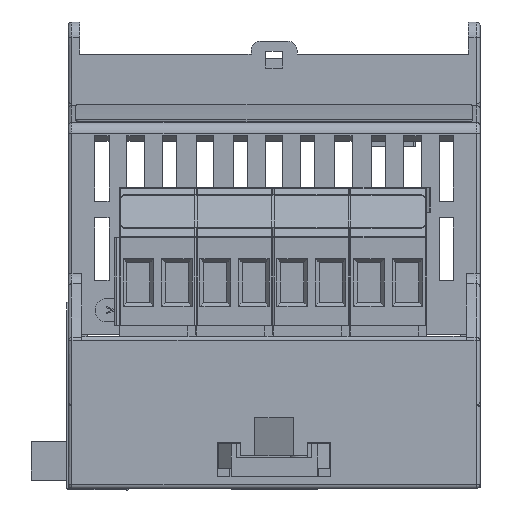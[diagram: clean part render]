
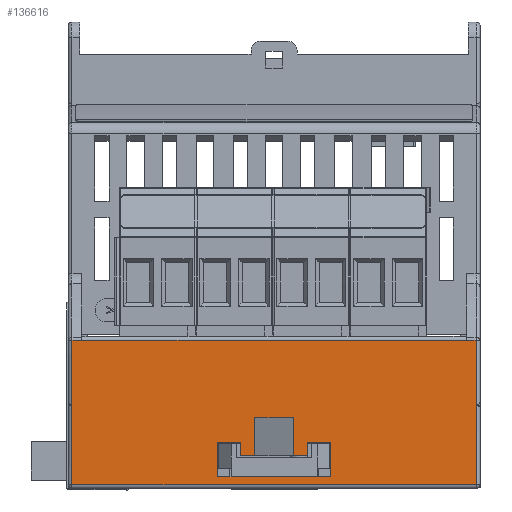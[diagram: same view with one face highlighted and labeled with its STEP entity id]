
A CAD part, front view. The second image highlights one B-rep face of the part: STEP entity #136616.
In plain terms, the highlighted planar face has unit normal (0, -1, 0).
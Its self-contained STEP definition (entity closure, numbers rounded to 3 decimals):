
#1679=FACE_BOUND('',#16717,.T.);
#9259=FACE_OUTER_BOUND('',#16716,.T.);
#16716=EDGE_LOOP('',(#106196,#106197,#106198,#106199,#106200,#106201,#106202,
#106203,#106204,#106205));
#16717=EDGE_LOOP('',(#106206,#106207,#106208,#106209,#106210,#106211,#106212,
#106213,#106214,#106215,#106216,#106217,#106218,#106219));
#19325=LINE('',#182890,#35326);
#19434=LINE('',#183110,#35435);
#19435=LINE('',#183113,#35436);
#24157=LINE('',#194832,#40158);
#24161=LINE('',#194864,#40162);
#24163=LINE('',#194922,#40164);
#24410=LINE('',#195841,#40411);
#25453=LINE('',#198085,#41454);
#28952=LINE('',#216117,#44953);
#28953=LINE('',#216119,#44954);
#28954=LINE('',#216121,#44955);
#28955=LINE('',#216122,#44956);
#28956=LINE('',#216123,#44957);
#28957=LINE('',#216125,#44958);
#28958=LINE('',#216127,#44959);
#28959=LINE('',#216129,#44960);
#28960=LINE('',#216131,#44961);
#28961=LINE('',#216133,#44962);
#28962=LINE('',#216135,#44963);
#28963=LINE('',#216137,#44964);
#28964=LINE('',#216139,#44965);
#28965=LINE('',#216141,#44966);
#28966=LINE('',#216143,#44967);
#28967=LINE('',#216144,#44968);
#35326=VECTOR('',#148449,1.);
#35435=VECTOR('',#148646,1.);
#35436=VECTOR('',#148649,1.);
#40158=VECTOR('',#158969,1.);
#40162=VECTOR('',#159005,1.);
#40164=VECTOR('',#159011,1.);
#40411=VECTOR('',#159636,1.);
#41454=VECTOR('',#161623,1.);
#44953=VECTOR('',#170962,1.);
#44954=VECTOR('',#170963,1.);
#44955=VECTOR('',#170964,1.);
#44956=VECTOR('',#170965,1.);
#44957=VECTOR('',#170966,1.);
#44958=VECTOR('',#170967,1.);
#44959=VECTOR('',#170968,1.);
#44960=VECTOR('',#170969,1.);
#44961=VECTOR('',#170970,1.);
#44962=VECTOR('',#170971,1.);
#44963=VECTOR('',#170972,1.);
#44964=VECTOR('',#170973,1.);
#44965=VECTOR('',#170974,1.);
#44966=VECTOR('',#170975,1.);
#44967=VECTOR('',#170976,1.);
#44968=VECTOR('',#170977,1.);
#51324=VERTEX_POINT('',#182888);
#51325=VERTEX_POINT('',#182889);
#51392=VERTEX_POINT('',#183108);
#51393=VERTEX_POINT('',#183112);
#54745=VERTEX_POINT('',#193231);
#55328=VERTEX_POINT('',#194826);
#55330=VERTEX_POINT('',#194830);
#55341=VERTEX_POINT('',#194861);
#55342=VERTEX_POINT('',#194863);
#55344=VERTEX_POINT('',#194869);
#56235=VERTEX_POINT('',#198084);
#59296=VERTEX_POINT('',#216116);
#59297=VERTEX_POINT('',#216118);
#59298=VERTEX_POINT('',#216120);
#59299=VERTEX_POINT('',#216124);
#59300=VERTEX_POINT('',#216126);
#59301=VERTEX_POINT('',#216128);
#59302=VERTEX_POINT('',#216130);
#59303=VERTEX_POINT('',#216132);
#59304=VERTEX_POINT('',#216134);
#59305=VERTEX_POINT('',#216136);
#59306=VERTEX_POINT('',#216138);
#59307=VERTEX_POINT('',#216140);
#59308=VERTEX_POINT('',#216142);
#63651=EDGE_CURVE('',#51324,#51325,#19325,.T.);
#63765=EDGE_CURVE('',#51392,#51324,#19434,.T.);
#63766=EDGE_CURVE('',#51325,#51393,#19435,.T.);
#69447=EDGE_CURVE('',#55330,#55328,#24157,.T.);
#69462=EDGE_CURVE('',#55341,#55342,#24161,.T.);
#69466=EDGE_CURVE('',#55341,#55344,#24163,.T.);
#69793=EDGE_CURVE('',#55328,#54745,#24410,.T.);
#70903=EDGE_CURVE('',#56235,#55342,#25453,.T.);
#75770=EDGE_CURVE('',#59296,#56235,#28952,.T.);
#75771=EDGE_CURVE('',#59297,#55344,#28953,.T.);
#75772=EDGE_CURVE('',#59297,#59298,#28954,.T.);
#75773=EDGE_CURVE('',#54745,#59298,#28955,.T.);
#75774=EDGE_CURVE('',#55330,#59296,#28956,.T.);
#75775=EDGE_CURVE('',#51392,#59299,#28957,.T.);
#75776=EDGE_CURVE('',#59300,#59299,#28958,.T.);
#75777=EDGE_CURVE('',#59300,#59301,#28959,.T.);
#75778=EDGE_CURVE('',#59302,#59301,#28960,.T.);
#75779=EDGE_CURVE('',#59302,#59303,#28961,.T.);
#75780=EDGE_CURVE('',#59304,#59303,#28962,.T.);
#75781=EDGE_CURVE('',#59304,#59305,#28963,.T.);
#75782=EDGE_CURVE('',#59306,#59305,#28964,.T.);
#75783=EDGE_CURVE('',#59306,#59307,#28965,.T.);
#75784=EDGE_CURVE('',#59307,#59308,#28966,.T.);
#75785=EDGE_CURVE('',#59308,#51393,#28967,.T.);
#106196=ORIENTED_EDGE('',*,*,#75770,.T.);
#106197=ORIENTED_EDGE('',*,*,#70903,.T.);
#106198=ORIENTED_EDGE('',*,*,#69462,.F.);
#106199=ORIENTED_EDGE('',*,*,#69466,.T.);
#106200=ORIENTED_EDGE('',*,*,#75771,.F.);
#106201=ORIENTED_EDGE('',*,*,#75772,.T.);
#106202=ORIENTED_EDGE('',*,*,#75773,.F.);
#106203=ORIENTED_EDGE('',*,*,#69793,.F.);
#106204=ORIENTED_EDGE('',*,*,#69447,.F.);
#106205=ORIENTED_EDGE('',*,*,#75774,.T.);
#106206=ORIENTED_EDGE('',*,*,#63765,.F.);
#106207=ORIENTED_EDGE('',*,*,#75775,.T.);
#106208=ORIENTED_EDGE('',*,*,#75776,.F.);
#106209=ORIENTED_EDGE('',*,*,#75777,.T.);
#106210=ORIENTED_EDGE('',*,*,#75778,.F.);
#106211=ORIENTED_EDGE('',*,*,#75779,.T.);
#106212=ORIENTED_EDGE('',*,*,#75780,.F.);
#106213=ORIENTED_EDGE('',*,*,#75781,.T.);
#106214=ORIENTED_EDGE('',*,*,#75782,.F.);
#106215=ORIENTED_EDGE('',*,*,#75783,.T.);
#106216=ORIENTED_EDGE('',*,*,#75784,.T.);
#106217=ORIENTED_EDGE('',*,*,#75785,.T.);
#106218=ORIENTED_EDGE('',*,*,#63766,.F.);
#106219=ORIENTED_EDGE('',*,*,#63651,.F.);
#123329=PLANE('',#145596);
#136616=ADVANCED_FACE('',(#9259,#1679),#123329,.F.);
#145596=AXIS2_PLACEMENT_3D('',#216115,#170960,#170961);
#148449=DIRECTION('',(1.,0.,0.));
#148646=DIRECTION('',(1.,0.,0.));
#148649=DIRECTION('',(1.,0.,0.));
#158969=DIRECTION('',(1.,0.,0.));
#159005=DIRECTION('',(1.,0.,0.));
#159011=DIRECTION('',(0.,0.,-1.));
#159636=DIRECTION('',(0.,0.,-1.));
#161623=DIRECTION('',(0.,0.,-1.));
#170960=DIRECTION('center_axis',(0.,1.,0.));
#170961=DIRECTION('ref_axis',(0.,0.,
1.));
#170962=DIRECTION('',(-1.,0.,0.));
#170963=DIRECTION('',(0.,0.,1.));
#170964=DIRECTION('',(1.,0.,0.));
#170965=DIRECTION('',(0.,0.,-1.));
#170966=DIRECTION('',(0.,0.,1.));
#170967=DIRECTION('',(0.,0.,1.));
#170968=DIRECTION('',(-1.,0.,0.));
#170969=DIRECTION('',(0.,0.,-1.));
#170970=DIRECTION('',(-1.,0.,0.));
#170971=DIRECTION('',(0.,0.,1.));
#170972=DIRECTION('',(-1.,0.,0.));
#170973=DIRECTION('',(0.,0.,-1.));
#170974=DIRECTION('',(-1.,0.,0.));
#170975=DIRECTION('',(0.,0.,1.));
#170976=DIRECTION('',(1.,0.,0.));
#170977=DIRECTION('',(0.,0.,-1.));
#182888=CARTESIAN_POINT('',(-5.6,-44.6,-4.5));
#182889=CARTESIAN_POINT('',(5.6,-44.6,-4.5));
#182890=CARTESIAN_POINT('',(-0.533,-44.6,-4.5));
#183108=CARTESIAN_POINT('',(-7.4,-44.6,-4.5));
#183110=CARTESIAN_POINT('',(-0.533,-44.6,-4.5));
#183112=CARTESIAN_POINT('',(7.4,-44.6,-4.5));
#183113=CARTESIAN_POINT('',(-0.533,-44.6,-4.5));
#193231=CARTESIAN_POINT('',(26.3,-44.6,4.919));
#194826=CARTESIAN_POINT('',(26.3,-44.6,13.26));
#194830=CARTESIAN_POINT('',(25.,-44.6,13.26));
#194832=CARTESIAN_POINT('',(-12.408,-44.6,13.26));
#194861=CARTESIAN_POINT('',(-26.3,-44.6,13.26));
#194863=CARTESIAN_POINT('',(-25.,-44.6,13.26));
#194864=CARTESIAN_POINT('',(-26.3,-44.6,13.26));
#194869=CARTESIAN_POINT('',(-26.3,-44.6,4.919));
#194922=CARTESIAN_POINT('',(-26.3,-44.6,-2.3));
#195841=CARTESIAN_POINT('',(26.3,-44.6,-2.3));
#198084=CARTESIAN_POINT('',(-25.,-44.6,13.3));
#198085=CARTESIAN_POINT('',(-25.,-44.6,10.));
#216115=CARTESIAN_POINT('Origin',(0.772,-44.6,-2.492));
#216116=CARTESIAN_POINT('',(25.,-44.6,13.3));
#216117=CARTESIAN_POINT('',(17.467,-44.6,13.3));
#216118=CARTESIAN_POINT('',(-26.3,-44.6,-5.5));
#216119=CARTESIAN_POINT('',(-26.3,-44.6,10.));
#216120=CARTESIAN_POINT('',(26.3,-44.6,-5.5));
#216121=CARTESIAN_POINT('',(10.672,-44.6,-5.5));
#216122=CARTESIAN_POINT('',(26.3,-44.6,2.512));
#216123=CARTESIAN_POINT('',(25.,-44.6,10.));
#216124=CARTESIAN_POINT('',(-7.4,-44.6,0.));
#216125=CARTESIAN_POINT('',(-7.4,-44.6,10.));
#216126=CARTESIAN_POINT('',(-4.4,-44.6,0.));
#216127=CARTESIAN_POINT('',(-0.533,-44.6,0.));
#216128=CARTESIAN_POINT('',(-4.4,-44.6,-1.75));
#216129=CARTESIAN_POINT('',(-4.4,-44.6,10.));
#216130=CARTESIAN_POINT('',(-2.5,-44.6,-1.75));
#216131=CARTESIAN_POINT('',(-0.533,-44.6,-1.75));
#216132=CARTESIAN_POINT('',(-2.5,-44.6,3.195));
#216133=CARTESIAN_POINT('',(-2.5,-44.6,10.));
#216134=CARTESIAN_POINT('',(2.5,-44.6,3.195));
#216135=CARTESIAN_POINT('',(-0.533,-44.6,3.195));
#216136=CARTESIAN_POINT('',(2.5,-44.6,-1.75));
#216137=CARTESIAN_POINT('',(2.5,-44.6,10.));
#216138=CARTESIAN_POINT('',(4.4,-44.6,-1.75));
#216139=CARTESIAN_POINT('',(-0.533,-44.6,-1.75));
#216140=CARTESIAN_POINT('',(4.4,-44.6,0.));
#216141=CARTESIAN_POINT('',(4.4,-44.6,10.));
#216142=CARTESIAN_POINT('',(7.4,-44.6,0.));
#216143=CARTESIAN_POINT('',(-0.533,-44.6,0.));
#216144=CARTESIAN_POINT('',(7.4,-44.6,10.));
